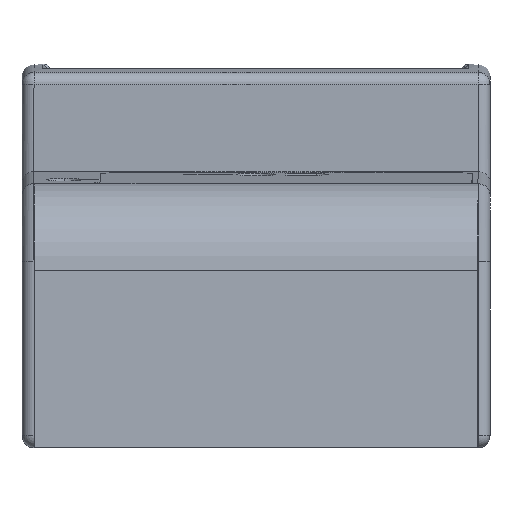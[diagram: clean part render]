
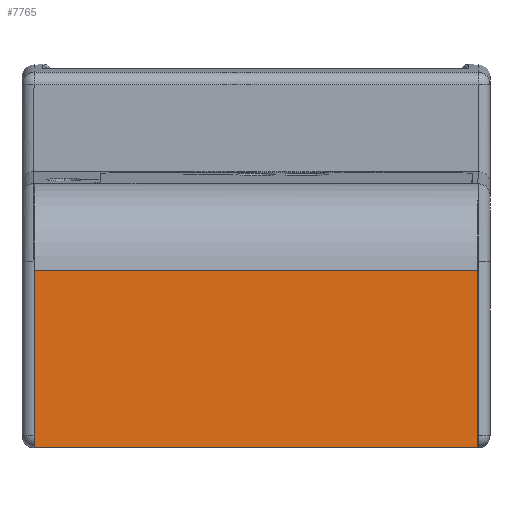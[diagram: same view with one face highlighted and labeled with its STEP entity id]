
A CAD part, front view. The second image highlights one B-rep face of the part: STEP entity #7765.
In plain terms, the highlighted planar face has unit normal (0, -1, 0.032) as drawn and (-0.999, 0.032, 0) by its records, which use the part's own axes.
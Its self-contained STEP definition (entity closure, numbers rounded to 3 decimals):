
#1460 = CARTESIAN_POINT ( 'NONE',  ( -32.5, -22.768, -37. ) ) ;
#1624 = VERTEX_POINT ( 'NONE', #33460 ) ;
#1727 = PLANE ( 'NONE',  #31536 ) ;
#1748 = FACE_OUTER_BOUND ( 'NONE', #3361, .T. ) ;
#2027 = VERTEX_POINT ( 'NONE', #22979 ) ;
#2389 = VECTOR ( 'NONE', #28174, 1000. ) ;
#2742 = LINE ( 'NONE', #12551, #5569 ) ;
#3361 = EDGE_LOOP ( 'NONE', ( #15379, #7868, #18192, #24828 ) ) ;
#3614 = VECTOR ( 'NONE', #14282, 1000. ) ;
#3757 = DIRECTION ( 'NONE',  ( 0., 0., 1. ) ) ;
#4231 = DIRECTION ( 'NONE',  ( -0.032, -0.999, 0. ) ) ;
#5052 = DIRECTION ( 'NONE',  ( 0., 0., 1. ) ) ;
#5569 = VECTOR ( 'NONE', #5052, 1000. ) ;
#6145 = VERTEX_POINT ( 'NONE', #24802 ) ;
#7059 = VECTOR ( 'NONE', #3757, 1000. ) ;
#7765 = ADVANCED_FACE ( 'NONE', ( #1748 ), #1727, .T. ) ;
#7868 = ORIENTED_EDGE ( 'NONE', *, *, #20177, .F. ) ;
#11239 = LINE ( 'NONE', #31936, #3614 ) ;
#11734 = CARTESIAN_POINT ( 'NONE',  ( -32.5, -22.768, -37. ) ) ;
#12551 = CARTESIAN_POINT ( 'NONE',  ( -31.548, 6.745, -37. ) ) ;
#14282 = DIRECTION ( 'NONE',  ( -0.032, -0.999, 0. ) ) ;
#14546 = DIRECTION ( 'NONE',  ( -0.999, 0.032, 0. ) ) ;
#15379 = ORIENTED_EDGE ( 'NONE', *, *, #23587, .T. ) ;
#18192 = ORIENTED_EDGE ( 'NONE', *, *, #32431, .F. ) ;
#20177 = EDGE_CURVE ( 'NONE', #1624, #6145, #33059, .T. ) ;
#22979 = CARTESIAN_POINT ( 'NONE',  ( -31.548, 6.745, -37. ) ) ;
#23587 = EDGE_CURVE ( 'NONE', #23664, #6145, #25999, .T. ) ;
#23664 = VERTEX_POINT ( 'NONE', #24474 ) ;
#24474 = CARTESIAN_POINT ( 'NONE',  ( -32.5, -22.768, -37. ) ) ;
#24802 = CARTESIAN_POINT ( 'NONE',  ( -32.5, -22.768, 37. ) ) ;
#24828 = ORIENTED_EDGE ( 'NONE', *, *, #25045, .T. ) ;
#25045 = EDGE_CURVE ( 'NONE', #2027, #23664, #11239, .T. ) ;
#25999 = LINE ( 'NONE', #1460, #7059 ) ;
#28174 = DIRECTION ( 'NONE',  ( -0.032, -0.999, 0. ) ) ;
#30447 = CARTESIAN_POINT ( 'NONE',  ( -32.5, -22.768, 37. ) ) ;
#31536 = AXIS2_PLACEMENT_3D ( 'NONE', #11734, #14546, #4231 ) ;
#31936 = CARTESIAN_POINT ( 'NONE',  ( -32.5, -22.768, -37. ) ) ;
#32431 = EDGE_CURVE ( 'NONE', #2027, #1624, #2742, .T. ) ;
#33059 = LINE ( 'NONE', #30447, #2389 ) ;
#33460 = CARTESIAN_POINT ( 'NONE',  ( -31.548, 6.745, 37. ) ) ;
